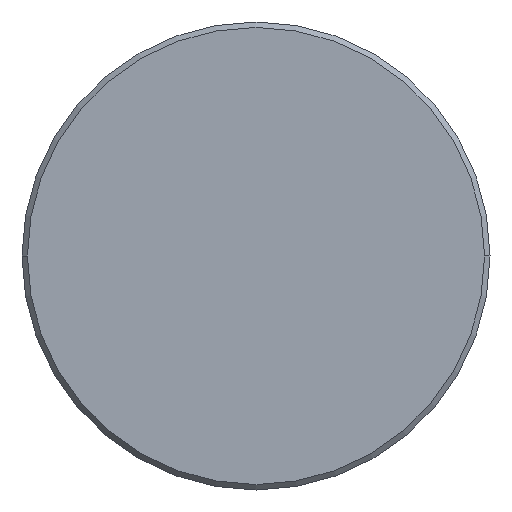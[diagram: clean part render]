
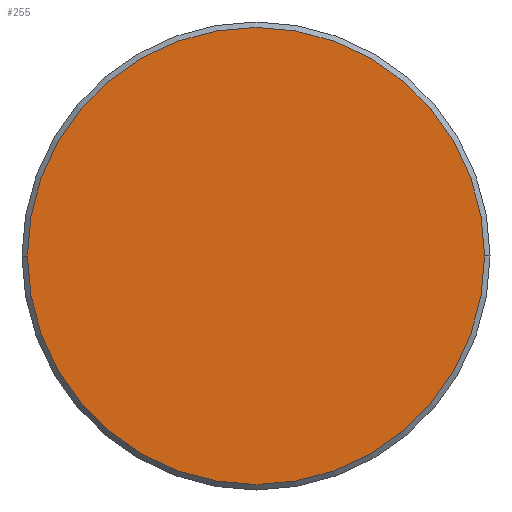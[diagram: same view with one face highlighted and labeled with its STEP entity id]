
A CAD part, left-side view. The second image highlights one B-rep face of the part: STEP entity #255.
In plain terms, the highlighted planar face has unit normal (-1, 0, 0).
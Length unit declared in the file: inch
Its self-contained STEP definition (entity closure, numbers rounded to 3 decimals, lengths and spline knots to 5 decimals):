
#20 = CARTESIAN_POINT ( 'NONE',  ( 0., -0.16788, 0. ) ) ;
#29 = EDGE_LOOP ( 'NONE', ( #344, #368 ) ) ;
#64 = DIRECTION ( 'NONE',  ( 0., -1., 0. ) ) ;
#66 = DIRECTION ( 'NONE',  ( -1., 0., 0. ) ) ;
#78 = AXIS2_PLACEMENT_3D ( 'NONE', #199, #379, #372 ) ;
#99 = DIRECTION ( 'NONE',  ( 0., -1., 0. ) ) ;
#131 = EDGE_CURVE ( 'NONE', #164, #169, #183, .T. ) ;
#139 = AXIS2_PLACEMENT_3D ( 'NONE', #148, #241, #99 ) ;
#148 = CARTESIAN_POINT ( 'NONE',  ( 0., 0., 0. ) ) ;
#163 = CIRCLE ( 'NONE', #139, 0.16788 ) ;
#164 = VERTEX_POINT ( 'NONE', #192 ) ;
#169 = VERTEX_POINT ( 'NONE', #20 ) ;
#183 = CIRCLE ( 'NONE', #78, 0.16788 ) ;
#192 = CARTESIAN_POINT ( 'NONE',  ( 0., 0.16788, 0. ) ) ;
#199 = CARTESIAN_POINT ( 'NONE',  ( 0., 0., 0. ) ) ;
#208 = FACE_OUTER_BOUND ( 'NONE', #29, .T. ) ;
#236 = PLANE ( 'NONE',  #276 ) ;
#241 = DIRECTION ( 'NONE',  ( -1., 0., 0. ) ) ;
#255 = ADVANCED_FACE ( 'NONE', ( #208 ), #236, .T. ) ;
#261 = CARTESIAN_POINT ( 'NONE',  ( 0., 0., 0. ) ) ;
#276 = AXIS2_PLACEMENT_3D ( 'NONE', #261, #66, #64 ) ;
#331 = EDGE_CURVE ( 'NONE', #169, #164, #163, .T. ) ;
#344 = ORIENTED_EDGE ( 'NONE', *, *, #131, .T. ) ;
#368 = ORIENTED_EDGE ( 'NONE', *, *, #331, .T. ) ;
#372 = DIRECTION ( 'NONE',  ( 0., -1., 0. ) ) ;
#379 = DIRECTION ( 'NONE',  ( -1., 0., 0. ) ) ;
